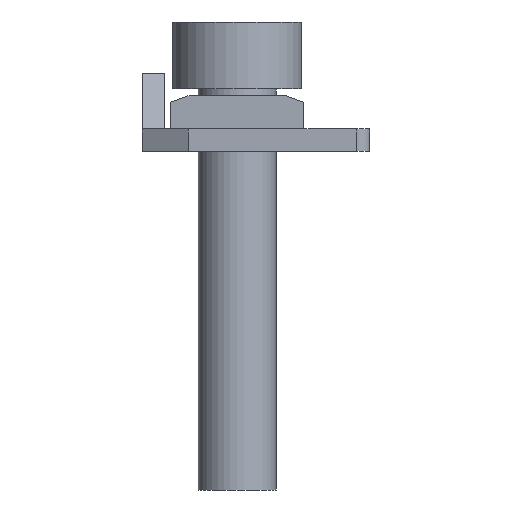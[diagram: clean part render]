
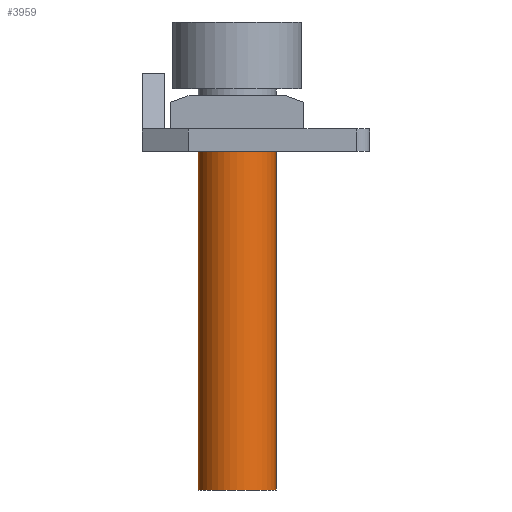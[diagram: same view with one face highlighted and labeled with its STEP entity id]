
A CAD part, left-side view. The second image highlights one B-rep face of the part: STEP entity #3959.
In plain terms, the highlighted cylindrical face has radius 1.75 mm (diameter 3.5 mm), a partial arc.
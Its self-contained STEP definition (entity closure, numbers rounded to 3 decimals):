
#3680=CARTESIAN_POINT('',(-31.85,64.25,0.2));
#3681=VERTEX_POINT('',#3680);
#3682=CARTESIAN_POINT('',(-31.85,67.75,0.2));
#3683=VERTEX_POINT('',#3682);
#3684=CARTESIAN_POINT('',(-31.85,66.,0.2));
#3685=DIRECTION('',(0.,-1.,0.));
#3686=DIRECTION('',(0.,0.,-1.));
#3687=AXIS2_PLACEMENT_3D('',#3684,#3686,#3685);
#3688=CIRCLE('',#3687,1.75);
#3689=EDGE_CURVE('',#3681,#3683,#3688,.T.);
#3928=CARTESIAN_POINT('',(-31.85,66.,0.2));
#3929=DIRECTION('',(0.,1.,0.));
#3930=DIRECTION('',(0.,0.,-1.));
#3931=AXIS2_PLACEMENT_3D('',#3928,#3930,#3929);
#3932=CYLINDRICAL_SURFACE('',#3931,1.75);
#3933=ORIENTED_EDGE('',*,*,#3689,.T.);
#3934=CARTESIAN_POINT('',(-31.85,67.75,-16.));
#3935=VERTEX_POINT('',#3934);
#3936=CARTESIAN_POINT('',(-31.85,67.75,0.2));
#3937=DIRECTION('',(0.,0.,-1.));
#3938=VECTOR('',#3937,16.2);
#3939=LINE('',#3936,#3938);
#3940=EDGE_CURVE('',#3683,#3935,#3939,.T.);
#3941=ORIENTED_EDGE('E26',*,*,#3940,.T.);
#3942=CARTESIAN_POINT('',(-31.85,64.25,-16.));
#3943=VERTEX_POINT('',#3942);
#3944=CARTESIAN_POINT('',(-31.85,66.,-16.));
#3945=DIRECTION('',(0.,-1.,0.));
#3946=DIRECTION('',(0.,0.,-1.));
#3947=AXIS2_PLACEMENT_3D('',#3944,#3946,#3945);
#3948=CIRCLE('',#3947,1.75);
#3949=EDGE_CURVE('',#3943,#3935,#3948,.T.);
#3950=ORIENTED_EDGE('E14',*,*,#3949,.F.);
#3951=CARTESIAN_POINT('',(-31.85,64.25,-16.));
#3952=DIRECTION('',(0.,0.,1.));
#3953=VECTOR('',#3952,16.2);
#3954=LINE('',#3951,#3953);
#3955=EDGE_CURVE('',#3943,#3681,#3954,.T.);
#3956=ORIENTED_EDGE('E27',*,*,#3955,.T.);
#3957=EDGE_LOOP('',(#3933,#3941,#3950,#3956));
#3958=FACE_OUTER_BOUND('',#3957,.T.);
#3959=ADVANCED_FACE('F7',(#3958),#3932,.T.);
